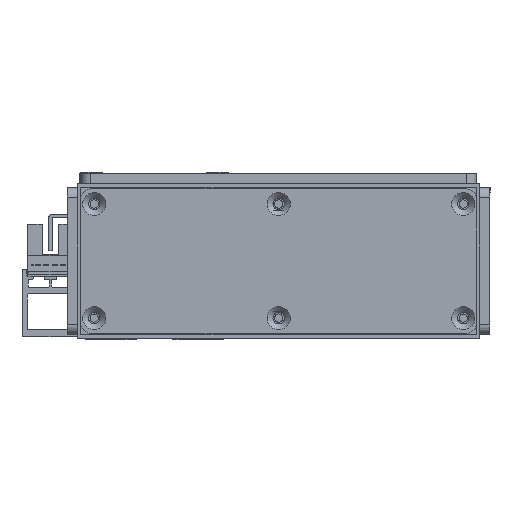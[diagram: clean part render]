
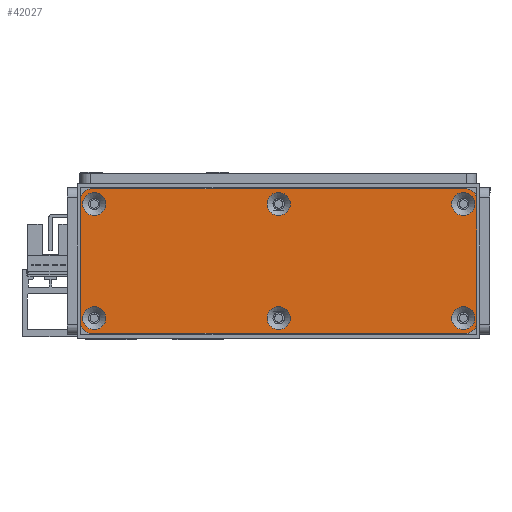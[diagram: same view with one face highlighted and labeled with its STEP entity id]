
A CAD part, front view. The second image highlights one B-rep face of the part: STEP entity #42027.
In plain terms, the highlighted planar face has unit normal (0, -1, 0) as drawn and (0, 0, 1) by its records, which use the part's own axes.
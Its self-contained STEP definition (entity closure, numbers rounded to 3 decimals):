
#707=FACE_BOUND('',#7548,.T.);
#708=FACE_BOUND('',#7549,.T.);
#709=FACE_BOUND('',#7550,.T.);
#710=FACE_BOUND('',#7551,.T.);
#711=FACE_BOUND('',#7552,.T.);
#712=FACE_BOUND('',#7553,.T.);
#2578=PLANE('',#45381);
#5079=FACE_OUTER_BOUND('',#7547,.T.);
#7547=EDGE_LOOP('',(#33902,#33903,#33904,#33905,#33906,#33907,#33908,#33909));
#7548=EDGE_LOOP('',(#33910));
#7549=EDGE_LOOP('',(#33911));
#7550=EDGE_LOOP('',(#33912));
#7551=EDGE_LOOP('',(#33913));
#7552=EDGE_LOOP('',(#33914));
#7553=EDGE_LOOP('',(#33915));
#10376=LINE('',#64503,#15046);
#10380=LINE('',#64515,#15050);
#10384=LINE('',#64527,#15054);
#10388=LINE('',#64537,#15058);
#15046=VECTOR('',#51801,10.);
#15050=VECTOR('',#51813,10.);
#15054=VECTOR('',#51825,10.);
#15058=VECTOR('',#51837,10.);
#19059=CIRCLE('',#45335,3.45);
#19062=CIRCLE('',#45340,3.45);
#19065=CIRCLE('',#45345,3.45);
#19068=CIRCLE('',#45350,3.45);
#19071=CIRCLE('',#45355,3.45);
#19074=CIRCLE('',#45360,3.45);
#19078=CIRCLE('',#45366,3.);
#19080=CIRCLE('',#45370,3.);
#19082=CIRCLE('',#45374,3.);
#19084=CIRCLE('',#45378,3.);
#20871=VERTEX_POINT('',#64431);
#20874=VERTEX_POINT('',#64441);
#20877=VERTEX_POINT('',#64451);
#20880=VERTEX_POINT('',#64461);
#20883=VERTEX_POINT('',#64471);
#20886=VERTEX_POINT('',#64481);
#20891=VERTEX_POINT('',#64494);
#20892=VERTEX_POINT('',#64496);
#20894=VERTEX_POINT('',#64502);
#20896=VERTEX_POINT('',#64508);
#20898=VERTEX_POINT('',#64514);
#20900=VERTEX_POINT('',#64520);
#20902=VERTEX_POINT('',#64526);
#20904=VERTEX_POINT('',#64532);
#25578=EDGE_CURVE('',#20871,#20871,#19059,.T.);
#25583=EDGE_CURVE('',#20874,#20874,#19062,.T.);
#25588=EDGE_CURVE('',#20877,#20877,#19065,.T.);
#25593=EDGE_CURVE('',#20880,#20880,#19068,.T.);
#25598=EDGE_CURVE('',#20883,#20883,#19071,.T.);
#25603=EDGE_CURVE('',#20886,#20886,#19074,.T.);
#25610=EDGE_CURVE('',#20892,#20891,#19078,.T.);
#25613=EDGE_CURVE('',#20894,#20892,#10376,.T.);
#25616=EDGE_CURVE('',#20896,#20894,#19080,.T.);
#25619=EDGE_CURVE('',#20898,#20896,#10380,.T.);
#25622=EDGE_CURVE('',#20900,#20898,#19082,.T.);
#25625=EDGE_CURVE('',#20902,#20900,#10384,.T.);
#25628=EDGE_CURVE('',#20904,#20902,#19084,.T.);
#25631=EDGE_CURVE('',#20891,#20904,#10388,.T.);
#33902=ORIENTED_EDGE('',*,*,#25631,.T.);
#33903=ORIENTED_EDGE('',*,*,#25628,.T.);
#33904=ORIENTED_EDGE('',*,*,#25625,.T.);
#33905=ORIENTED_EDGE('',*,*,#25622,.T.);
#33906=ORIENTED_EDGE('',*,*,#25619,.T.);
#33907=ORIENTED_EDGE('',*,*,#25616,.T.);
#33908=ORIENTED_EDGE('',*,*,#25613,.T.);
#33909=ORIENTED_EDGE('',*,*,#25610,.T.);
#33910=ORIENTED_EDGE('',*,*,#25578,.T.);
#33911=ORIENTED_EDGE('',*,*,#25583,.T.);
#33912=ORIENTED_EDGE('',*,*,#25588,.T.);
#33913=ORIENTED_EDGE('',*,*,#25593,.T.);
#33914=ORIENTED_EDGE('',*,*,#25598,.T.);
#33915=ORIENTED_EDGE('',*,*,#25603,.T.);
#42027=ADVANCED_FACE('',(#5079,#707,#708,#709,#710,#711,#712),#2578,.T.);
#45335=AXIS2_PLACEMENT_3D('',#64432,#51720,#51721);
#45340=AXIS2_PLACEMENT_3D('',#64442,#51732,#51733);
#45345=AXIS2_PLACEMENT_3D('',#64452,#51744,#51745);
#45350=AXIS2_PLACEMENT_3D('',#64462,#51756,#51757);
#45355=AXIS2_PLACEMENT_3D('',#64472,#51768,#51769);
#45360=AXIS2_PLACEMENT_3D('',#64482,#51780,#51781);
#45366=AXIS2_PLACEMENT_3D('',#64497,#51795,#51796);
#45370=AXIS2_PLACEMENT_3D('',#64509,#51807,#51808);
#45374=AXIS2_PLACEMENT_3D('',#64521,#51819,#51820);
#45378=AXIS2_PLACEMENT_3D('',#64533,#51831,#51832);
#45381=AXIS2_PLACEMENT_3D('',#64539,#51840,#51841);
#51720=DIRECTION('center_axis',(0.,0.,-1.));
#51721=DIRECTION('ref_axis',(1.,0.,0.));
#51732=DIRECTION('center_axis',(0.,0.,-1.));
#51733=DIRECTION('ref_axis',(1.,0.,0.));
#51744=DIRECTION('center_axis',(0.,0.,-1.));
#51745=DIRECTION('ref_axis',(1.,0.,0.));
#51756=DIRECTION('center_axis',(0.,0.,-1.));
#51757=DIRECTION('ref_axis',(1.,0.,0.));
#51768=DIRECTION('center_axis',(0.,0.,-1.));
#51769=DIRECTION('ref_axis',(1.,0.,0.));
#51780=DIRECTION('center_axis',(0.,0.,-1.));
#51781=DIRECTION('ref_axis',(1.,0.,0.));
#51795=DIRECTION('center_axis',(0.,0.,1.));
#51796=DIRECTION('ref_axis',(-1.,0.,0.));
#51801=DIRECTION('',(0.,1.,0.));
#51807=DIRECTION('center_axis',(0.,0.,1.));
#51808=DIRECTION('ref_axis',(0.,1.,0.));
#51813=DIRECTION('',(1.,0.,0.));
#51819=DIRECTION('center_axis',(0.,0.,1.));
#51820=DIRECTION('ref_axis',(1.,0.,0.));
#51825=DIRECTION('',(0.,-1.,0.));
#51831=DIRECTION('center_axis',(0.,0.,1.));
#51832=DIRECTION('ref_axis',(0.,-1.,0.));
#51837=DIRECTION('',(-1.,0.,0.));
#51840=DIRECTION('center_axis',(0.,0.,1.));
#51841=DIRECTION('ref_axis',(1.,0.,0.));
#64431=CARTESIAN_POINT('',(110.55,4.5,3.));
#64432=CARTESIAN_POINT('Origin',(114.,4.5,3.));
#64441=CARTESIAN_POINT('',(55.55,38.5,3.));
#64442=CARTESIAN_POINT('Origin',(59.,38.5,3.));
#64451=CARTESIAN_POINT('',(55.55,4.5,3.));
#64452=CARTESIAN_POINT('Origin',(59.,4.5,3.));
#64461=CARTESIAN_POINT('',(0.55,38.5,3.));
#64462=CARTESIAN_POINT('Origin',(4.,38.5,3.));
#64471=CARTESIAN_POINT('',(110.55,38.5,3.));
#64472=CARTESIAN_POINT('Origin',(114.,38.5,3.));
#64481=CARTESIAN_POINT('',(0.55,4.5,3.));
#64482=CARTESIAN_POINT('Origin',(4.,4.5,3.));
#64494=CARTESIAN_POINT('',(115.,43.,3.));
#64496=CARTESIAN_POINT('',(118.,40.,3.));
#64497=CARTESIAN_POINT('Origin',(115.,40.,3.));
#64502=CARTESIAN_POINT('',(118.,3.,3.));
#64503=CARTESIAN_POINT('',(118.,40.,3.));
#64508=CARTESIAN_POINT('',(115.,0.,3.));
#64509=CARTESIAN_POINT('Origin',(115.,3.,3.));
#64514=CARTESIAN_POINT('',(3.,0.,3.));
#64515=CARTESIAN_POINT('',(115.,0.,3.));
#64520=CARTESIAN_POINT('',(0.,3.,3.));
#64521=CARTESIAN_POINT('Origin',(3.,3.,3.));
#64526=CARTESIAN_POINT('',(0.,40.,3.));
#64527=CARTESIAN_POINT('',(0.,3.,3.));
#64532=CARTESIAN_POINT('',(3.,43.,3.));
#64533=CARTESIAN_POINT('Origin',(3.,40.,3.));
#64537=CARTESIAN_POINT('',(3.,43.,3.));
#64539=CARTESIAN_POINT('Origin',(59.,21.5,3.));
